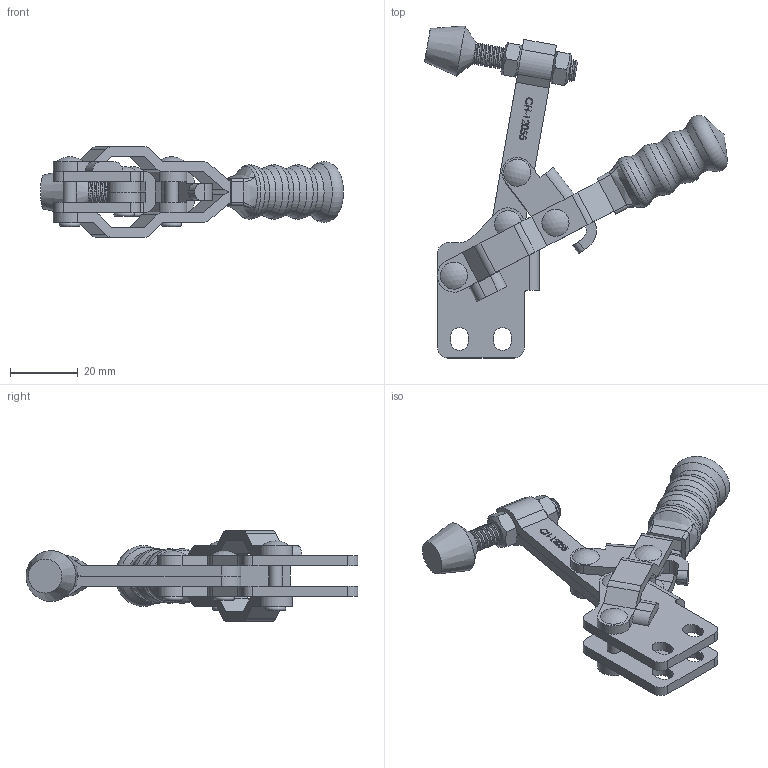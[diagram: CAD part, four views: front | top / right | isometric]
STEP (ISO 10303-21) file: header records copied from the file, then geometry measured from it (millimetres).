
FILE_DESCRIPTION(/* description */ ('STEP AP203'),/* implementation_level */ '2;1');
FILE_NAME(/* name */ 'D:\Vault_2016\Projekty\NASZ KATALOG\CLAMPTEK\STRONA\Vertical toggle clamp\CH-12055\CH-12055_OTWARTY.stp',/* time_stamp */ '2019-01-18T13:02:31+01:00',/* author */ ('CADENGINEERING4'),/* organization */ ('Î¢ÈíÖÐ¹ú'),/* preprocessor_version */ 'ST-DEVELOPER v17.2',/* originating_system */ 'Autodesk Inventor 2019',/* authorisation */ '');
FILE_SCHEMA (('AUTOMOTIVE_DESIGN { 1 0 10303 214 3 1 1 }'));
Length unit declared in the file: millimetre
Products named in the file (10): CH-12055_OTWARTY; CH-12055-01 STRAIGHT BASE; CH-12055-02 FIXED SPINDLE; CH-12050-03 STRAIGHT HANDLE; CH-12050-04 CONNECTING-PLATE; CH-12050-05; CH-12050-06; CH-12050-07; CH-FC-14134 SPINDLE SUPPLIED; CH-FC-14134 Nut
Assembly tree (12 placements, depth 2):
  CH-12055_OTWARTY
    CH-12055-01 STRAIGHT BASE
    CH-12055-02 FIXED SPINDLE
    CH-12050-03 STRAIGHT HANDLE
    CH-12050-04 CONNECTING-PLATE
    CH-12050-05
    CH-12050-06  x2
    CH-12050-07  x2
    CH-FC-14134 Nut  x2
    CH-FC-14134 SPINDLE SUPPLIED
Bounding box: 89.42 x 97.98 x 26.8 mm (x, y, z)
Volume: 25308.2 mm3; surface area: 22449.2 mm2
Topology: 14 solids, 16 shells, 645 faces, 1804 edges, 1219 vertices
Faces by surface type: plane 286, bspline 187, cylinder 127, cone 25, torus 16, sphere 4
Full cylindrical faces by diameter (mm): 1.005 x1, 1.217 x1, 4 x20, 5.1 x6, 6.4 x26
Entity records: 38013 total; most frequent: CARTESIAN_POINT 22969, ORIENTED_EDGE 3416, DIRECTION 2425, EDGE_CURVE 1708, VERTEX_POINT 1155, LINE 953, VECTOR 953, AXIS2_PLACEMENT_3D 736
